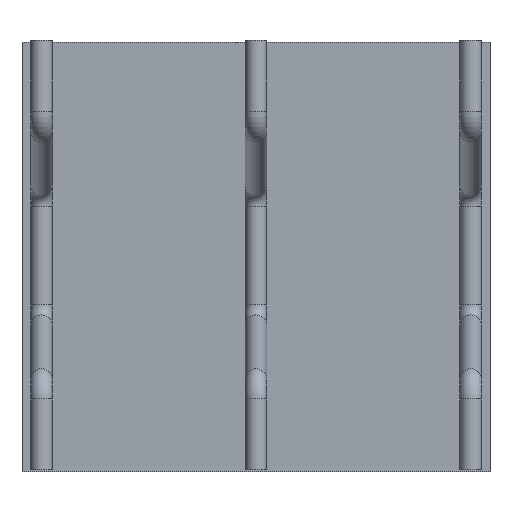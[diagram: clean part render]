
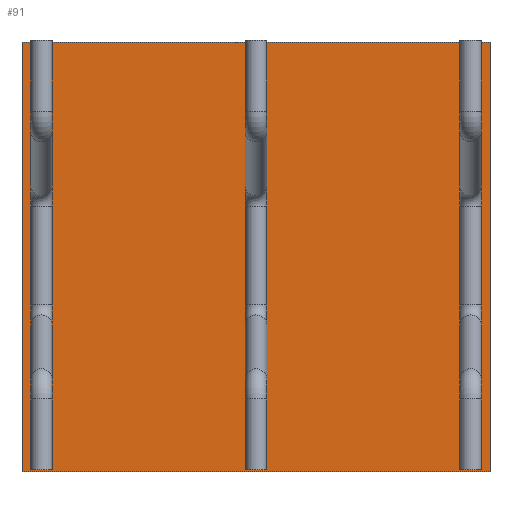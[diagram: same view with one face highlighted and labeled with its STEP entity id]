
A CAD part, top view. The second image highlights one B-rep face of the part: STEP entity #91.
In plain terms, the highlighted planar face has unit normal (0, 0, 1).
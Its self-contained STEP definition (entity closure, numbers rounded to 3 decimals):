
#52=CARTESIAN_POINT('Axis2P3D Location',(0.,0.,0.)) ;
#57=CARTESIAN_POINT('Line Origine',(0.,500.,0.)) ;
#61=CARTESIAN_POINT('Vertex',(545.,500.,0.)) ;
#63=CARTESIAN_POINT('Vertex',(-545.,500.,0.)) ;
#66=CARTESIAN_POINT('Line Origine',(-545.,0.,0.)) ;
#70=CARTESIAN_POINT('Vertex',(-545.,-500.,0.)) ;
#73=CARTESIAN_POINT('Line Origine',(0.,-500.,0.)) ;
#77=CARTESIAN_POINT('Vertex',(545.,-500.,0.)) ;
#80=CARTESIAN_POINT('Line Origine',(545.,0.,0.)) ;
#53=DIRECTION('Axis2P3D Direction',(0.,0.,1.)) ;
#54=DIRECTION('Axis2P3D XDirection',(1.,0.,0.)) ;
#58=DIRECTION('Vector Direction',(1.,0.,0.)) ;
#67=DIRECTION('Vector Direction',(0.,1.,0.)) ;
#74=DIRECTION('Vector Direction',(-1.,0.,0.)) ;
#81=DIRECTION('Vector Direction',(0.,-1.,0.)) ;
#55=AXIS2_PLACEMENT_3D('Plane Axis2P3D',#52,#53,#54) ;
#86=ORIENTED_EDGE('',*,*,#65,.T.) ;
#87=ORIENTED_EDGE('',*,*,#72,.T.) ;
#88=ORIENTED_EDGE('',*,*,#79,.T.) ;
#89=ORIENTED_EDGE('',*,*,#84,.T.) ;
#59=VECTOR('Line Direction',#58,1.) ;
#68=VECTOR('Line Direction',#67,1.) ;
#75=VECTOR('Line Direction',#74,1.) ;
#82=VECTOR('Line Direction',#81,1.) ;
#91=ADVANCED_FACE('Fill.1',(#90),#56,.T.) ;
#65=EDGE_CURVE('',#62,#64,#60,.F.) ;
#72=EDGE_CURVE('',#64,#71,#69,.F.) ;
#79=EDGE_CURVE('',#71,#78,#76,.F.) ;
#84=EDGE_CURVE('',#78,#62,#83,.F.) ;
#85=EDGE_LOOP('',(#86,#87,#88,#89)) ;
#90=FACE_OUTER_BOUND('',#85,.T.) ;
#60=LINE('Line',#57,#59) ;
#69=LINE('Line',#66,#68) ;
#76=LINE('Line',#73,#75) ;
#83=LINE('Line',#80,#82) ;
#56=PLANE('',#55) ;
#62=VERTEX_POINT('',#61) ;
#64=VERTEX_POINT('',#63) ;
#71=VERTEX_POINT('',#70) ;
#78=VERTEX_POINT('',#77) ;
